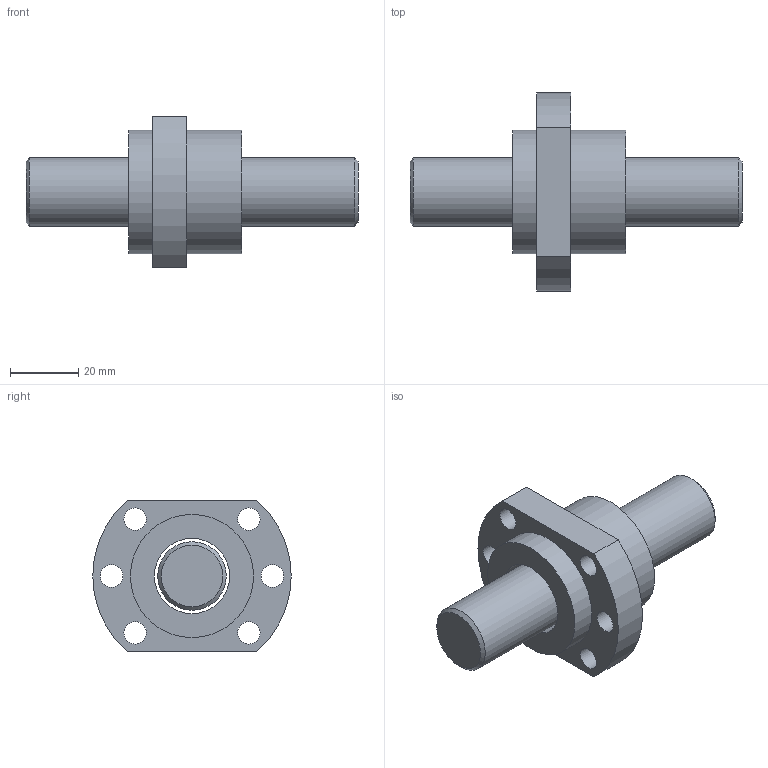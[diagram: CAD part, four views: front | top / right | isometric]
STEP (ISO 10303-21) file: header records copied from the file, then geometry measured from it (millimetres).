
FILE_DESCRIPTION(/* description */ (''),/* implementation_level */ '2;1');
FILE_NAME(/* name */ 'SFA2005-3.8.stp',/* time_stamp */ '2019-04-01T14:30:06+08:00',/* author */ (''),/* organization */ (''),/* preprocessor_version */ 'ST-DEVELOPER v14',/* originating_system */ 'SIEMENS PLM Software NX 8.0',/* authorisation */ '');
FILE_SCHEMA (('AP203_CONFIGURATION_CONTROLLED_3D_DESIGN_OF_MECHANICAL_PARTS_AND_ASSEMBLIES_MIM_LF { 1 0 10303 403 2 1 2}'));
Length unit declared in the file: millimetre
Products named in the file (1): 00250F9064919b6m
Bounding box: 97 x 58 x 44 mm (x, y, z)
Volume: 62025.6 mm3; surface area: 17916.6 mm2
Topology: 2 solids, 2 shells, 22 faces, 49 edges, 33 vertices
Faces by surface type: cylinder 12, plane 8, cone 2
Full cylindrical faces by diameter (mm): 6.6 x6, 20 x1, 22 x1, 36 x2
Entity records: 658 total; most frequent: DIRECTION 106, CARTESIAN_POINT 87, ORIENTED_EDGE 68, EDGE_LOOP 50, AXIS2_PLACEMENT_3D 49, FACE_BOUND 44, EDGE_CURVE 34, VERTEX_POINT 30
